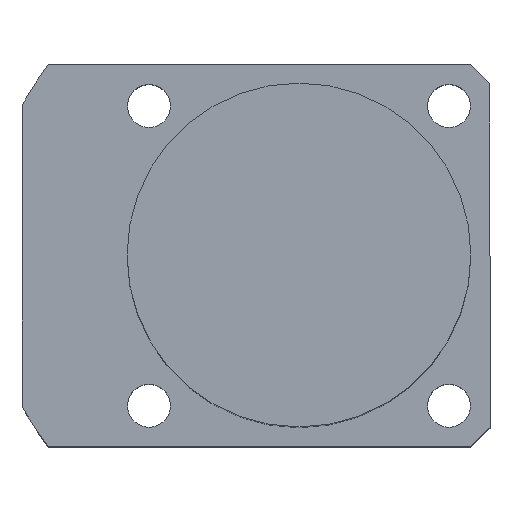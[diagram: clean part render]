
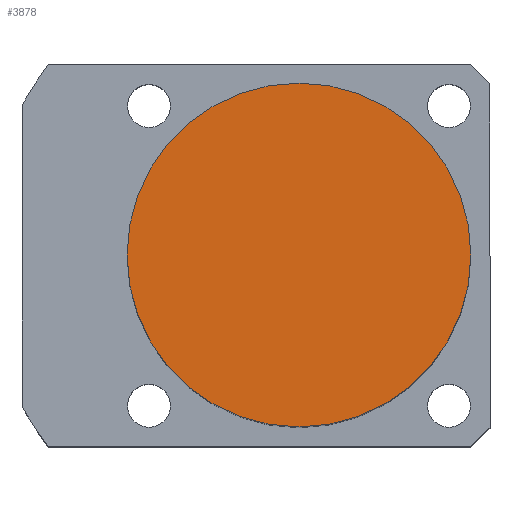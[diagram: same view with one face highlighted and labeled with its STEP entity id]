
A CAD part, top view. The second image highlights one B-rep face of the part: STEP entity #3878.
In plain terms, the highlighted planar face has unit normal (0, 0, 1).
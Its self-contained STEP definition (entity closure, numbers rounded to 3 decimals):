
#59 = PLANE ( 'NONE',  #1242 ) ;
#89 = ORIENTED_EDGE ( 'NONE', *, *, #2052, .T. ) ;
#213 = AXIS2_PLACEMENT_3D ( 'NONE', #1376, #3579, #1699 ) ;
#288 = DIRECTION ( 'NONE',  ( 0., 0., 1. ) ) ;
#666 = DIRECTION ( 'NONE',  ( 0., 0., 1. ) ) ;
#945 = CARTESIAN_POINT ( 'NONE',  ( -18., 0., 58.5 ) ) ;
#1242 = AXIS2_PLACEMENT_3D ( 'NONE', #1578, #666, #2834 ) ;
#1376 = CARTESIAN_POINT ( 'NONE',  ( 0., 0., 58.5 ) ) ;
#1405 = VERTEX_POINT ( 'NONE', #3261 ) ;
#1578 = CARTESIAN_POINT ( 'NONE',  ( 0., 0., 58.5 ) ) ;
#1675 = ORIENTED_EDGE ( 'NONE', *, *, #3479, .T. ) ;
#1699 = DIRECTION ( 'NONE',  ( 1., 0., 0. ) ) ;
#1927 = CIRCLE ( 'NONE', #213, 18. ) ;
#2052 = EDGE_CURVE ( 'NONE', #2171, #1405, #3823, .T. ) ;
#2126 = CARTESIAN_POINT ( 'NONE',  ( 0., 0., 58.5 ) ) ;
#2171 = VERTEX_POINT ( 'NONE', #945 ) ;
#2317 = AXIS2_PLACEMENT_3D ( 'NONE', #2126, #288, #2434 ) ;
#2434 = DIRECTION ( 'NONE',  ( 1., 0., 0. ) ) ;
#2834 = DIRECTION ( 'NONE',  ( 1., 0., 0. ) ) ;
#3039 = EDGE_LOOP ( 'NONE', ( #89, #1675 ) ) ;
#3261 = CARTESIAN_POINT ( 'NONE',  ( 18., 0., 58.5 ) ) ;
#3303 = FACE_OUTER_BOUND ( 'NONE', #3039, .T. ) ;
#3479 = EDGE_CURVE ( 'NONE', #1405, #2171, #1927, .T. ) ;
#3579 = DIRECTION ( 'NONE',  ( 0., 0., 1. ) ) ;
#3823 = CIRCLE ( 'NONE', #2317, 18. ) ;
#3878 = ADVANCED_FACE ( 'NONE', ( #3303 ), #59, .T. ) ;
